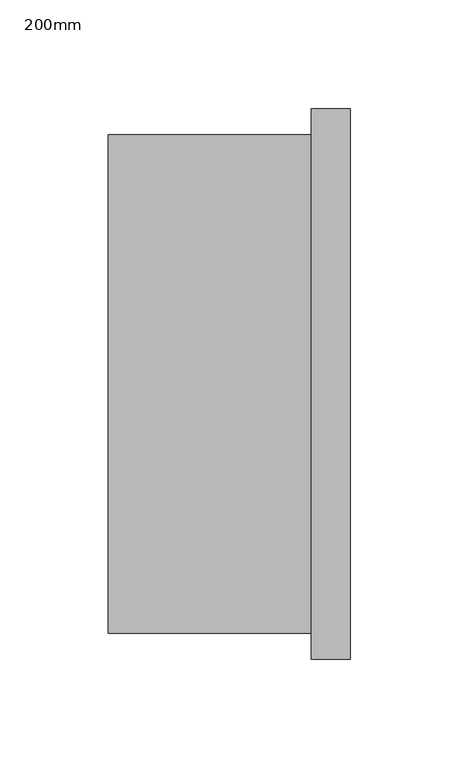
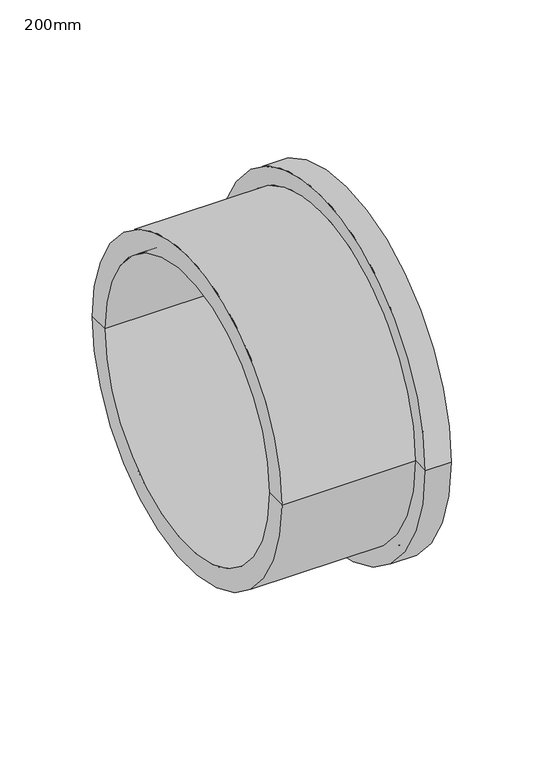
"""IFC4 building model written with IfcOpenShell, lengths in millimetres: pipe fitting geometry, Durapipe_PipeFitting_PVC_StubFlange : 200mm."""

from ifc_helpers import new_model, si_unit, frame, origin, place, context, project, spatial, polyline, circle_curve, source, transform, mapped, element, save
from ifc_brep_helpers import plane_surface, cylinder_surface, revolved_surface, advanced_brep


def pipe_fitting_200mm_46101ffc(model_context):
    return source(origin(), model_context, "Body", "AdvancedBrep", [
        advanced_brep(
        [(55.75, -127.0, 0.0), (55.75, 127.0, 0.0), (55.75, 121.0, 0.0), (55.75, -121.0, 0.0), (55.75, 100.0, 0.0), (55.75, -100.0, 0.0), (55.75, -117.2720779, 0.0), (55.75, 117.2720779, 0.0), (37.75, -127.0, 0.0), (37.75, 127.0, 0.0), (37.75, -115.0, 0.0), (37.75, 115.0, 0.0), (-55.75, -115.0, 0.0), (-55.75, 115.0, 0.0), (-55.75, -100.0, 0.0), (-55.75, 100.0, 0.0), (55.75, 118.5147186, 0.0), (54.25, 117.8933983, 0.0), (54.25, -117.8933983, 0.0), (55.75, -118.5147186, 0.0), (54.25, -119.136039, 0.0), (54.25, 119.136039, 0.0), (55.75, -119.7573593, 0.0), (55.75, 119.7573593, 0.0), (54.25, -120.3786797, 0.0), (54.25, 120.3786797, 0.0)],
        [
            (0, 1, circle_curve(frame((55.75, 0.0, 0.0), z_axis=(1.0, 0.0, 0.0), x_axis=(0.0, 1.0, 0.0)), 127.0)),
            (1, 2),
            (2, 3, circle_curve(frame((55.75, 0.0, 0.0), z_axis=(-1.0, 0.0, 0.0), x_axis=(0.0, -1.0, 0.0)), 121.0)),
            (3, 0),
            (4, 5, circle_curve(frame((55.75, 0.0, 0.0), z_axis=(-1.0, 0.0, 0.0), x_axis=(0.0, 1.0, 0.0)), 100.0)),
            (5, 6),
            (6, 7, circle_curve(frame((55.75, 0.0, 0.0), z_axis=(1.0, 0.0, 0.0), x_axis=(0.0, -1.0, 0.0)), 117.2720779)),
            (7, 4),
            (1, 0, circle_curve(frame((55.75, 0.0, 0.0), z_axis=(1.0, 0.0, 0.0), x_axis=(0.0, 1.0, 0.0)), 127.0)),
            (3, 2, circle_curve(frame((55.75, 0.0, 0.0), z_axis=(-1.0, 0.0, 0.0), x_axis=(0.0, 1.0, 0.0)), 121.0)),
            (5, 4, circle_curve(frame((55.75, 0.0, 0.0), z_axis=(-1.0, 0.0, 0.0), x_axis=(0.0, 1.0, 0.0)), 100.0)),
            (7, 6, circle_curve(frame((55.75, 0.0, 0.0), z_axis=(1.0, 0.0, 0.0), x_axis=(0.0, 1.0, 0.0)), 117.2720779)),
            (0, 8),
            (8, 9, circle_curve(frame((37.75, 0.0, 0.0), z_axis=(1.0, 0.0, 0.0), x_axis=(0.0, 1.0, 0.0)), 127.0)),
            (9, 1),
            (9, 8, circle_curve(frame((37.75, 0.0, 0.0), z_axis=(1.0, 0.0, 0.0), x_axis=(0.0, 1.0, 0.0)), 127.0)),
            (8, 10),
            (10, 11, circle_curve(frame((37.75, 0.0, 0.0), z_axis=(1.0, 0.0, 0.0), x_axis=(0.0, 1.0, 0.0)), 115.0)),
            (11, 9),
            (11, 10, circle_curve(frame((37.75, 0.0, 0.0), z_axis=(1.0, 0.0, 0.0), x_axis=(0.0, 1.0, 0.0)), 115.0)),
            (10, 12),
            (12, 13, circle_curve(frame((-55.75, 0.0, 0.0), z_axis=(1.0, 0.0, 0.0), x_axis=(0.0, 1.0, 0.0)), 115.0)),
            (13, 11),
            (13, 12, circle_curve(frame((-55.75, 0.0, 0.0), z_axis=(1.0, 0.0, 0.0), x_axis=(0.0, 1.0, 0.0)), 115.0)),
            (12, 14),
            (14, 15, circle_curve(frame((-55.75, 0.0, 0.0), z_axis=(1.0, 0.0, 0.0), x_axis=(0.0, 1.0, 0.0)), 100.0)),
            (15, 13),
            (15, 14, circle_curve(frame((-55.75, 0.0, 0.0), z_axis=(1.0, 0.0, 0.0), x_axis=(0.0, 1.0, 0.0)), 100.0)),
            (4, 15),
            (14, 5),
            (16, 17),
            (17, 18, circle_curve(frame((54.25, 0.0, 0.0), z_axis=(-1.0, 0.0, 0.0), x_axis=(0.0, -1.0, 0.0)), 117.8933983)),
            (18, 19),
            (19, 16, circle_curve(frame((55.75, 0.0, 0.0), z_axis=(1.0, 0.0, 0.0), x_axis=(0.0, -1.0, 0.0)), 118.5147186)),
            (19, 20),
            (20, 21, circle_curve(frame((54.25, 0.0, 0.0), z_axis=(1.0, 0.0, 0.0), x_axis=(0.0, -1.0, 0.0)), 119.136039)),
            (21, 16),
            (20, 22),
            (22, 23, circle_curve(frame((55.75, 0.0, 0.0), z_axis=(1.0, 0.0, 0.0), x_axis=(0.0, -1.0, 0.0)), 119.7573593)),
            (23, 21),
            (22, 24),
            (24, 25, circle_curve(frame((54.25, 0.0, 0.0), z_axis=(1.0, 0.0, 0.0), x_axis=(0.0, -1.0, 0.0)), 120.3786797)),
            (25, 23),
            (24, 3),
            (2, 25),
            (17, 7),
            (6, 18),
            (16, 19, circle_curve(frame((55.75, 0.0, 0.0), z_axis=(1.0, 0.0, 0.0), x_axis=(0.0, 1.0, 0.0)), 118.5147186)),
            (18, 17, circle_curve(frame((54.25, 0.0, 0.0), z_axis=(-1.0, 0.0, 0.0), x_axis=(0.0, 1.0, 0.0)), 117.8933983)),
            (21, 20, circle_curve(frame((54.25, 0.0, 0.0), z_axis=(1.0, 0.0, 0.0), x_axis=(0.0, 1.0, 0.0)), 119.136039)),
            (23, 22, circle_curve(frame((55.75, 0.0, 0.0), z_axis=(1.0, 0.0, 0.0), x_axis=(0.0, 1.0, 0.0)), 119.7573593)),
            (25, 24, circle_curve(frame((54.25, 0.0, 0.0), z_axis=(1.0, 0.0, 0.0), x_axis=(0.0, 1.0, 0.0)), 120.3786797)),
        ],
        [
            plane_surface(frame((55.75, 0.0, 0.0), z_axis=(1.0, 0.0, 0.0), x_axis=(0.0, 1.0, 0.0))),
            cylinder_surface(frame((58.8535546, 0.0, 0.0), z_axis=(-1.0, 0.0, 0.0), x_axis=(0.0, 1.0, 0.0)), 127.0),
            plane_surface(frame((37.75, 0.0, 0.0), z_axis=(-1.0, 0.0, 0.0), x_axis=(0.0, 1.0, 0.0))),
            cylinder_surface(frame((58.8535546, 0.0, 0.0), z_axis=(-1.0, 0.0, 0.0), x_axis=(0.0, 1.0, 0.0)), 115.0),
            plane_surface(frame((-55.75, 0.0, 0.0), z_axis=(-1.0, 0.0, 0.0), x_axis=(0.0, 1.0, 0.0))),
            revolved_surface(polyline([(-55.75, 100.0, 0.0), (55.75, 100.0, 0.0)]), (-57.5750714, 0.0, 0.0), (-1.0, 0.0, 0.0)),
            revolved_surface(polyline([(55.75, -118.5147186, 0.0), (54.25, -117.8933983, 0.0)]), (55.75, 0.0, 0.0), (1.0, 0.0, 0.0)),
            revolved_surface(polyline([(54.25, -119.136039, 0.0), (55.75, -118.5147186, 0.0)]), (55.75, 0.0, 0.0), (1.0, 0.0, 0.0)),
            revolved_surface(polyline([(55.75, -119.7573593, 0.0), (54.25, -119.136039, 0.0)]), (55.75, 0.0, 0.0), (1.0, 0.0, 0.0)),
            revolved_surface(polyline([(54.25, -120.3786797, 0.0), (55.75, -119.7573593, 0.0)]), (55.75, 0.0, 0.0), (1.0, 0.0, 0.0)),
            revolved_surface(polyline([(55.75, -121.0, 0.0), (54.25, -120.3786797, 0.0)]), (55.75, 0.0, 0.0), (1.0, 0.0, 0.0)),
            revolved_surface(polyline([(54.25, -117.8933983, 0.0), (55.75, -117.2720779, 0.0)]), (55.75, 0.0, 0.0), (1.0, 0.0, 0.0)),
            revolved_surface(polyline([(55.75, 118.5147186, 0.0), (54.25, 117.8933983, 0.0)]), (55.75, 0.0, 0.0), (1.0, 0.0, 0.0)),
            revolved_surface(polyline([(54.25, 119.136039, 0.0), (55.75, 118.5147186, 0.0)]), (55.75, 0.0, 0.0), (1.0, 0.0, 0.0)),
            revolved_surface(polyline([(55.75, 119.7573593, 0.0), (54.25, 119.136039, 0.0)]), (55.75, 0.0, 0.0), (1.0, 0.0, 0.0)),
            revolved_surface(polyline([(54.25, 120.3786797, 0.0), (55.75, 119.7573593, 0.0)]), (55.75, 0.0, 0.0), (1.0, 0.0, 0.0)),
            revolved_surface(polyline([(55.75, 121.0, 0.0), (54.25, 120.3786797, 0.0)]), (55.75, 0.0, 0.0), (1.0, 0.0, 0.0)),
            revolved_surface(polyline([(54.25, 117.8933983, 0.0), (55.75, 117.2720779, 0.0)]), (55.75, 0.0, 0.0), (1.0, 0.0, 0.0)),
        ],
        [
            (0, [[1, 2, 3, 4]]),
            (0, [[5, 6, 7, 8]]),
            (0, [[9, -4, 10, -2]]),
            (0, [[11, -8, 12, -6]]),
            (1, [[-1, 13, 14, 15]]),
            (1, [[-9, -15, 16, -13]]),
            (2, [[-14, 17, 18, 19]]),
            (2, [[-16, -19, 20, -17]]),
            (3, [[-18, 21, 22, 23]]),
            (3, [[-20, -23, 24, -21]]),
            (4, [[-22, 25, 26, 27]]),
            (4, [[-24, -27, 28, -25]]),
            (5, [[29, -26, 30, -5]]),
            (5, [[-29, -11, -30, -28]]),
            (6, [[31, 32, 33, 34]]),
            (7, [[-34, 35, 36, 37]]),
            (8, [[-36, 38, 39, 40]]),
            (9, [[-39, 41, 42, 43]]),
            (10, [[-42, 44, -3, 45]]),
            (11, [[-32, 46, -7, 47]]),
            (12, [[-31, 48, -33, 49]]),
            (13, [[-37, 50, -35, -48]]),
            (14, [[-40, 51, -38, -50]]),
            (15, [[-43, 52, -41, -51]]),
            (16, [[-45, -10, -44, -52]]),
            (17, [[-46, -49, -47, -12]]),
        ],
    ),
    ])


if __name__ == "__main__":
    model = new_model("IFC4")
    model_context = context("Model", 3, world=origin())
    ifc_project = project(units=[si_unit("LENGTHUNIT", "METRE", prefix="MILLI")], contexts=[model_context])
    site = spatial("IfcSite", under=ifc_project)
    building = spatial("IfcBuilding", under=site)
    placement = place(None, origin())
    pipe_fitting_200mm_shape = pipe_fitting_200mm_46101ffc(model_context)
    element("IfcPipeFitting", 1, ObjectType="Durapipe_PipeFitting_PVC_StubFlange : 200mm", at=placement, inside=building, context=model_context, shape_type="MappedRepresentation", body=[
        mapped(pipe_fitting_200mm_shape, transform((0.0, 0.0, 0.0), x_axis=(1.0, 0.0, 0.0), y_axis=(0.0, 1.0, 0.0), z_axis=(0.0, 0.0, 1.0))),
    ])
    save(model, "model.ifc")
